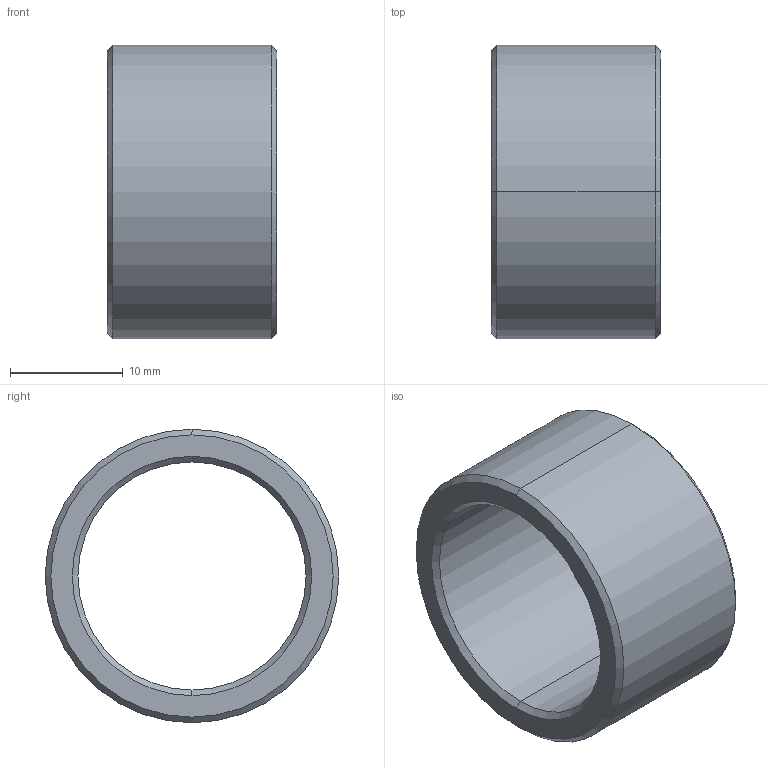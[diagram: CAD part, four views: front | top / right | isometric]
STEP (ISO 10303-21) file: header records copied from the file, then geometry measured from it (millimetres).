
FILE_DESCRIPTION (( 'STEP AP214' ), '1' );
FILE_NAME ('AGZ061.03.04_V1轴套.STEP', '2021-09-23T06:26:42', ( '微软中国' ), ( 'Microsoft' ), 'SwSTEP 2.0', 'SolidWorks 2017', '' );
FILE_SCHEMA (( 'AUTOMOTIVE_DESIGN' ));
Length unit declared in the file: millimetre
Products named in the file (1): AGZ061.03.04_V1粣杶
Bounding box: 15 x 26 x 26 mm (x, y, z)
Volume: 3120.5 mm3; surface area: 2513 mm2
Topology: 1 solids, 1 shells, 14 faces, 28 edges, 16 vertices
Faces by surface type: cone 8, cylinder 4, plane 2
Entity records: 402 total; most frequent: DIRECTION 74, CARTESIAN_POINT 59, ORIENTED_EDGE 56, AXIS2_PLACEMENT_3D 31, EDGE_CURVE 28, EDGE_LOOP 16, VERTEX_POINT 16, CIRCLE 16
